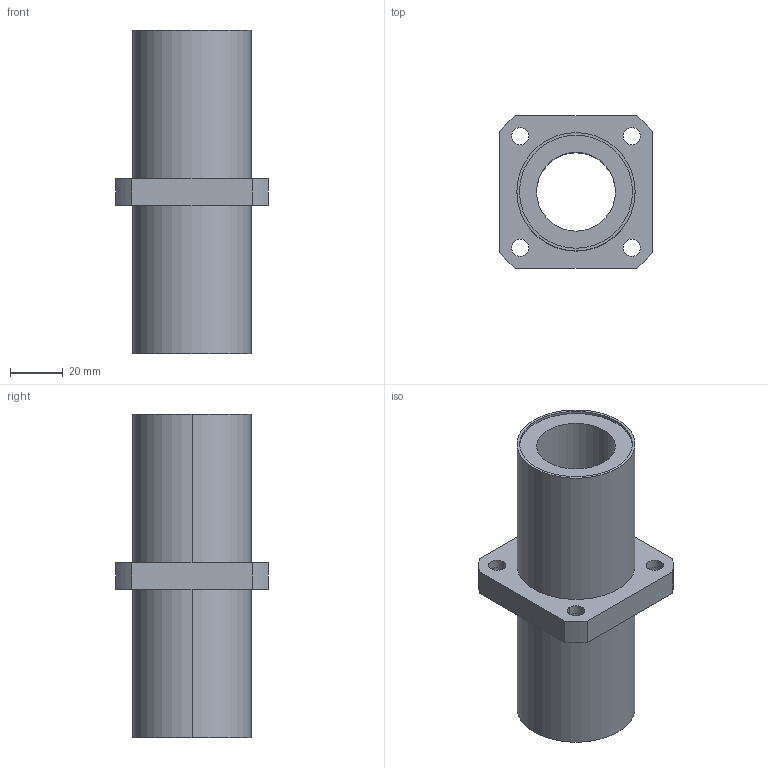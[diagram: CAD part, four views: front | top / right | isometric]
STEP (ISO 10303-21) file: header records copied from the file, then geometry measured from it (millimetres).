
FILE_DESCRIPTION((''),'2;1');
FILE_NAME('C:\Documents and Settings\ｿﾀﾀ蠑ｷ1\ｹﾙﾅﾁ ﾈｭｸ饅\ｺﾎﾇｰﾆﾄﾀﾏ\ﾁｦﾇｰ\LMKM__UU\LMKM30UU.stp','2005-06-15T13:27:42',('ｿﾀﾀ蠑ｷ1'),(''),'Autodesk Inventor 9','Autodesk Inventor 9','');
FILE_SCHEMA(('AUTOMOTIVE_DESIGN { 1 0 10303 214 1 1 1 1 }'));
Length unit declared in the file: millimetre
Products named in the file (1): LMKM__
Bounding box: 58 x 58 x 123 mm (x, y, z)
Volume: 121305.3 mm3; surface area: 35924.3 mm2
Topology: 1 solids, 1 shells, 44 faces, 102 edges, 68 vertices
Faces by surface type: cylinder 30, plane 14
Entity records: 1329 total; most frequent: DIRECTION 252, CARTESIAN_POINT 215, ORIENTED_EDGE 204, AXIS2_PLACEMENT_3D 105, EDGE_CURVE 102, VERTEX_POINT 68, EDGE_LOOP 62, CIRCLE 60
